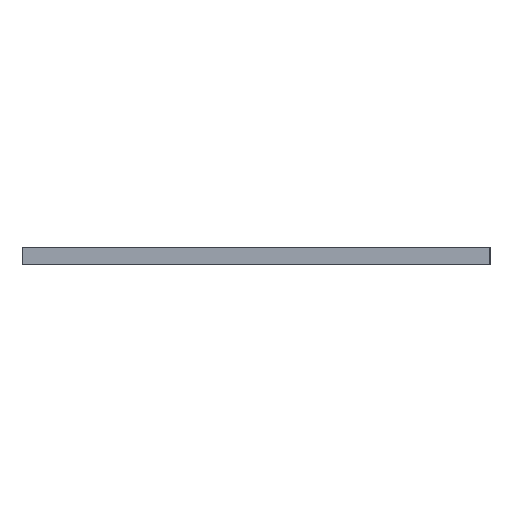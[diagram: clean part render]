
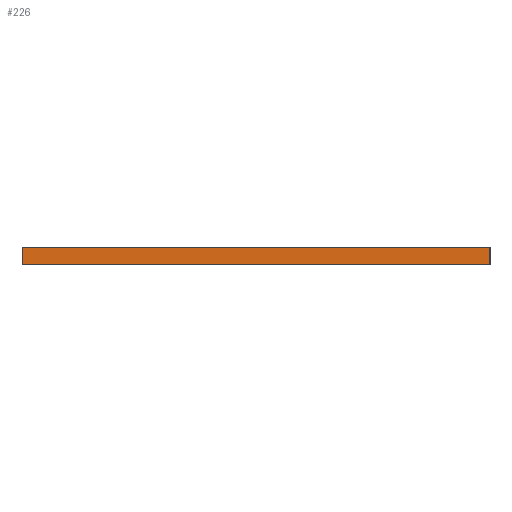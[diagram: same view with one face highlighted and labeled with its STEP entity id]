
A CAD part, left-side view. The second image highlights one B-rep face of the part: STEP entity #226.
In plain terms, the highlighted planar face has unit normal (-1, 0, 0).
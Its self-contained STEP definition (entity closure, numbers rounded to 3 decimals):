
#226=ADVANCED_FACE('',(#412),#3196,.T.);
#412=FACE_OUTER_BOUND('',#604,.T.);
#604=EDGE_LOOP('',(#903,#904,#905,#906));
#903=ORIENTED_EDGE('',*,*,#1842,.T.);
#904=ORIENTED_EDGE('',*,*,#1820,.F.);
#905=ORIENTED_EDGE('',*,*,#1841,.F.);
#906=ORIENTED_EDGE('',*,*,#1834,.F.);
#1820=EDGE_CURVE('',#2792,#2791,#2522,.T.);
#1834=EDGE_CURVE('',#2806,#2805,#2536,.T.);
#1841=EDGE_CURVE('',#2805,#2792,#2543,.T.);
#1842=EDGE_CURVE('',#2806,#2791,#2544,.T.);
#2522=B_SPLINE_CURVE_WITH_KNOTS('',1,(#3655,#3656),.UNSPECIFIED.,.F.,.F.,
(2,2),(14.,15.),.UNSPECIFIED.);
#2536=B_SPLINE_CURVE_WITH_KNOTS('',1,(#3683,#3684),.UNSPECIFIED.,.F.,.F.,
(2,2),(1.,2.),.UNSPECIFIED.);
#2543=B_SPLINE_CURVE_WITH_KNOTS('',1,(#3697,#3698),.UNSPECIFIED.,.F.,.F.,
(2,2),(0.,250.),.UNSPECIFIED.);
#2544=B_SPLINE_CURVE_WITH_KNOTS('',1,(#3699,#3700),.UNSPECIFIED.,.F.,.F.,
(2,2),(0.,250.),.UNSPECIFIED.);
#2791=VERTEX_POINT('',#3625);
#2792=VERTEX_POINT('',#3626);
#2805=VERTEX_POINT('',#3639);
#2806=VERTEX_POINT('',#3640);
#3196=PLANE('',#3330);
#3330=AXIS2_PLACEMENT_3D('',#3564,#3447,$);
#3447=DIRECTION('',(-1.,0.,0.));
#3564=CARTESIAN_POINT('',(1979.186,-5.08,9.5));
#3625=CARTESIAN_POINT('',(1979.186,-255.08,0.));
#3626=CARTESIAN_POINT('',(1979.186,-255.08,9.5));
#3639=CARTESIAN_POINT('',(1979.186,-5.08,9.5));
#3640=CARTESIAN_POINT('',(1979.186,-5.08,0.));
#3655=CARTESIAN_POINT('',(1979.186,-255.08,9.5));
#3656=CARTESIAN_POINT('',(1979.186,-255.08,0.));
#3683=CARTESIAN_POINT('',(1979.186,-5.08,0.));
#3684=CARTESIAN_POINT('',(1979.186,-5.08,9.5));
#3697=CARTESIAN_POINT('',(1979.186,-5.08,9.5));
#3698=CARTESIAN_POINT('',(1979.186,-255.08,9.5));
#3699=CARTESIAN_POINT('',(1979.186,-5.08,0.));
#3700=CARTESIAN_POINT('',(1979.186,-255.08,0.));
